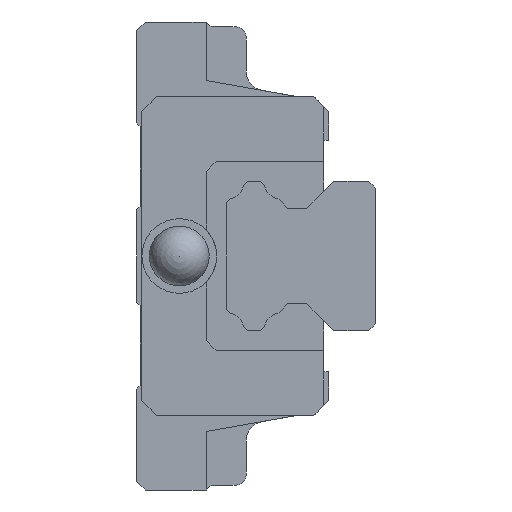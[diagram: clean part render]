
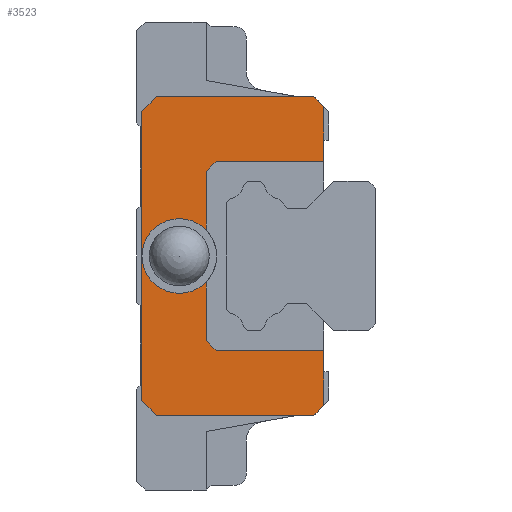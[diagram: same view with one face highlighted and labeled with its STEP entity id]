
A CAD part, left-side view. The second image highlights one B-rep face of the part: STEP entity #3523.
In plain terms, the highlighted planar face has unit normal (-1, 0, 0).
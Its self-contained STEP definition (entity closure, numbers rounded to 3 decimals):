
#95=CIRCLE('',#3808,2.);
#96=CIRCLE('',#3809,3.751);
#885=ORIENTED_EDGE('',*,*,#1536,.T.);
#886=ORIENTED_EDGE('',*,*,#1234,.T.);
#887=ORIENTED_EDGE('',*,*,#1537,.F.);
#888=ORIENTED_EDGE('',*,*,#1228,.T.);
#889=ORIENTED_EDGE('',*,*,#1538,.T.);
#890=ORIENTED_EDGE('',*,*,#1539,.T.);
#891=ORIENTED_EDGE('',*,*,#1355,.F.);
#892=ORIENTED_EDGE('',*,*,#1526,.T.);
#893=ORIENTED_EDGE('',*,*,#1255,.F.);
#894=ORIENTED_EDGE('',*,*,#1243,.F.);
#895=ORIENTED_EDGE('',*,*,#1341,.F.);
#896=ORIENTED_EDGE('',*,*,#1288,.F.);
#897=ORIENTED_EDGE('',*,*,#1298,.F.);
#898=ORIENTED_EDGE('',*,*,#1527,.T.);
#899=ORIENTED_EDGE('',*,*,#1361,.F.);
#900=ORIENTED_EDGE('',*,*,#1540,.T.);
#901=ORIENTED_EDGE('',*,*,#1541,.T.);
#1228=EDGE_CURVE('',#1694,#1695,#2036,.T.);
#1234=EDGE_CURVE('',#1701,#1700,#2042,.T.);
#1243=EDGE_CURVE('',#1709,#1710,#2051,.T.);
#1255=EDGE_CURVE('',#1710,#1720,#2062,.T.);
#1288=EDGE_CURVE('',#1748,#1749,#2094,.T.);
#1298=EDGE_CURVE('',#1757,#1748,#2104,.T.);
#1341=EDGE_CURVE('',#1749,#1709,#2145,.T.);
#1355=EDGE_CURVE('',#1799,#1800,#2159,.T.);
#1361=EDGE_CURVE('',#1805,#1806,#2165,.T.);
#1526=EDGE_CURVE('',#1799,#1720,#2298,.T.);
#1527=EDGE_CURVE('',#1757,#1806,#2299,.T.);
#1536=EDGE_CURVE('',#1909,#1909,#95,.T.);
#1537=EDGE_CURVE('',#1694,#1700,#96,.T.);
#1538=EDGE_CURVE('',#1695,#1910,#2306,.T.);
#1539=EDGE_CURVE('',#1910,#1800,#2307,.T.);
#1540=EDGE_CURVE('',#1805,#1911,#2308,.T.);
#1541=EDGE_CURVE('',#1911,#1701,#2309,.T.);
#1694=VERTEX_POINT('',#5049);
#1695=VERTEX_POINT('',#5050);
#1700=VERTEX_POINT('',#5061);
#1701=VERTEX_POINT('',#5063);
#1709=VERTEX_POINT('',#5080);
#1710=VERTEX_POINT('',#5082);
#1720=VERTEX_POINT('',#5106);
#1748=VERTEX_POINT('',#5172);
#1749=VERTEX_POINT('',#5174);
#1757=VERTEX_POINT('',#5192);
#1799=VERTEX_POINT('',#5302);
#1800=VERTEX_POINT('',#5304);
#1805=VERTEX_POINT('',#5315);
#1806=VERTEX_POINT('',#5317);
#1909=VERTEX_POINT('',#5664);
#1910=VERTEX_POINT('',#5667);
#1911=VERTEX_POINT('',#5670);
#2036=LINE('',#5048,#2444);
#2042=LINE('',#5062,#2450);
#2051=LINE('',#5081,#2459);
#2062=LINE('',#5105,#2470);
#2094=LINE('',#5173,#2502);
#2104=LINE('',#5193,#2512);
#2145=LINE('',#5277,#2553);
#2159=LINE('',#5303,#2567);
#2165=LINE('',#5316,#2573);
#2298=LINE('',#5645,#2706);
#2299=LINE('',#5647,#2707);
#2306=LINE('',#5666,#2714);
#2307=LINE('',#5668,#2715);
#2308=LINE('',#5669,#2716);
#2309=LINE('',#5671,#2717);
#2444=VECTOR('',#4084,1000.);
#2450=VECTOR('',#4092,1000.);
#2459=VECTOR('',#4103,1000.);
#2470=VECTOR('',#4120,1000.);
#2502=VECTOR('',#4166,1000.);
#2512=VECTOR('',#4178,1000.);
#2553=VECTOR('',#4241,1000.);
#2567=VECTOR('',#4259,1000.);
#2573=VECTOR('',#4267,1000.);
#2706=VECTOR('',#4592,1000.);
#2707=VECTOR('',#4595,1000.);
#2714=VECTOR('',#4618,1000.);
#2715=VECTOR('',#4619,1000.);
#2716=VECTOR('',#4620,1000.);
#2717=VECTOR('',#4621,1000.);
#2941=EDGE_LOOP('',(#885));
#2942=EDGE_LOOP('',(#886,#887,#888,#889,#890,#891,#892,#893,#894,#895,#896,
#897,#898,#899,#900,#901));
#3173=FACE_BOUND('',#2941,.T.);
#3174=FACE_BOUND('',#2942,.T.);
#3351=PLANE('',#3807);
#3523=ADVANCED_FACE('',(#3173,#3174),#3351,.F.);
#3807=AXIS2_PLACEMENT_3D('',#5662,#4612,#4613);
#3808=AXIS2_PLACEMENT_3D('',#5663,#4614,#4615);
#3809=AXIS2_PLACEMENT_3D('',#5665,#4616,#4617);
#4084=DIRECTION('',(0.,0.,1.));
#4092=DIRECTION('',(0.,0.,1.));
#4103=DIRECTION('',(0.,-0.707,0.707));
#4120=DIRECTION('',(0.,-1.,0.));
#4166=DIRECTION('',(0.,0.707,0.707));
#4178=DIRECTION('',(0.,1.,0.));
#4241=DIRECTION('',(0.,0.,1.));
#4259=DIRECTION('',(0.,0.,-1.));
#4267=DIRECTION('',(0.,0.,-1.));
#4592=DIRECTION('',(0.,0.707,0.707));
#4595=DIRECTION('',(0.,-0.707,0.707));
#4612=DIRECTION('',(1.,0.,0.));
#4613=DIRECTION('',(0.,0.,-1.));
#4614=DIRECTION('',(1.,0.,0.));
#4615=DIRECTION('',(0.,0.,-1.));
#4616=DIRECTION('',(1.,0.,0.));
#4617=DIRECTION('',(0.,0.,-1.));
#4618=DIRECTION('',(0.,-0.707,0.707));
#4619=DIRECTION('',(0.,-1.,0.));
#4620=DIRECTION('',(0.,1.,0.));
#4621=DIRECTION('',(0.,0.707,0.707));
#5048=CARTESIAN_POINT('',(-27.8,12.3,-8.5));
#5049=CARTESIAN_POINT('',(-27.8,12.3,2.604));
#5050=CARTESIAN_POINT('',(-27.8,12.3,8.5));
#5061=CARTESIAN_POINT('',(-27.8,12.3,-2.604));
#5062=CARTESIAN_POINT('',(-27.8,12.3,-8.5));
#5063=CARTESIAN_POINT('',(-27.8,12.3,-8.5));
#5080=CARTESIAN_POINT('',(-27.8,18.8,14.5));
#5081=CARTESIAN_POINT('',(-27.8,18.8,14.5));
#5082=CARTESIAN_POINT('',(-27.8,17.3,16.));
#5105=CARTESIAN_POINT('',(-27.8,19.3,16.));
#5106=CARTESIAN_POINT('',(-27.8,1.5,16.));
#5172=CARTESIAN_POINT('',(-27.8,17.3,-16.));
#5173=CARTESIAN_POINT('',(-27.8,17.3,-16.));
#5174=CARTESIAN_POINT('',(-27.8,18.8,-14.5));
#5192=CARTESIAN_POINT('',(-27.8,1.5,-16.));
#5193=CARTESIAN_POINT('',(-27.8,0.,-16.));
#5277=CARTESIAN_POINT('',(-27.8,18.8,-14.5));
#5302=CARTESIAN_POINT('',(-27.8,0.5,15.));
#5303=CARTESIAN_POINT('',(-27.8,0.5,11.6));
#5304=CARTESIAN_POINT('',(-27.8,0.5,9.5));
#5315=CARTESIAN_POINT('',(-27.8,0.5,-9.5));
#5316=CARTESIAN_POINT('',(-27.8,0.5,11.6));
#5317=CARTESIAN_POINT('',(-27.8,0.5,-15.));
#5645=CARTESIAN_POINT('',(-27.8,1.5,16.));
#5647=CARTESIAN_POINT('',(-27.8,0.5,-15.));
#5662=CARTESIAN_POINT('',(-27.8,0.,0.));
#5663=CARTESIAN_POINT('',(-27.8,15.,0.));
#5664=CARTESIAN_POINT('',(-27.8,15.,-2.));
#5665=CARTESIAN_POINT('',(-27.8,15.,0.));
#5666=CARTESIAN_POINT('',(-27.8,12.3,8.5));
#5667=CARTESIAN_POINT('',(-27.8,11.3,9.5));
#5668=CARTESIAN_POINT('',(-27.8,11.3,9.5));
#5669=CARTESIAN_POINT('',(-27.8,0.5,-9.5));
#5670=CARTESIAN_POINT('',(-27.8,11.3,-9.5));
#5671=CARTESIAN_POINT('',(-27.8,11.3,-9.5));
